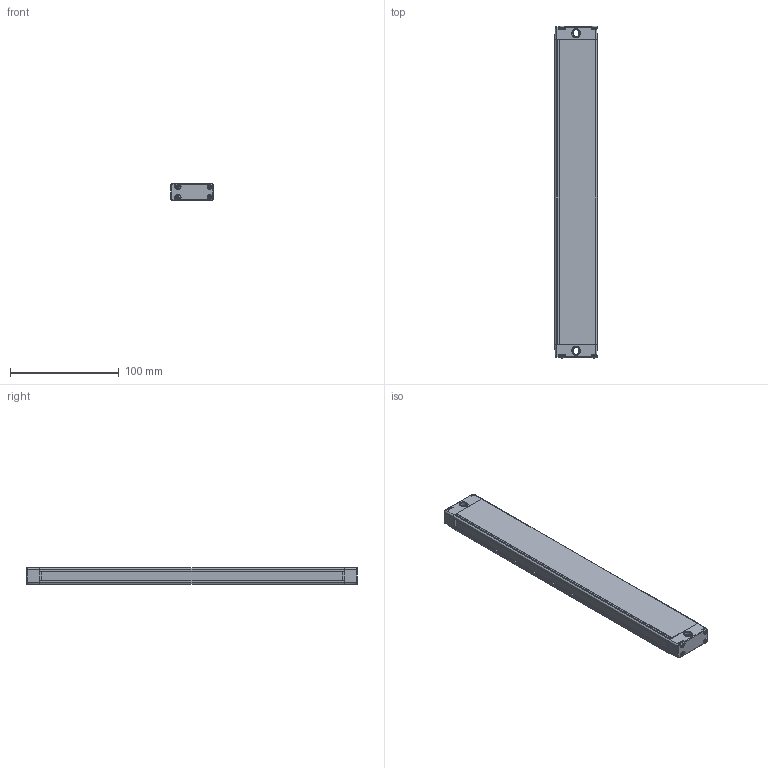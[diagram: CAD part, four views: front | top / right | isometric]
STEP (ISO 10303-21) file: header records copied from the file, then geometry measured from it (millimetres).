
FILE_DESCRIPTION((''),'2;1');
FILE_NAME('EB15--3610_ASM','2021-07-22T09:58:34',('18720616900'),(''),'CREO PARAMETRIC BY PTC INC, 2019010','CREO PARAMETRIC BY PTC INC, 2019010','');
FILE_SCHEMA(('CONFIG_CONTROL_DESIGN'));
Length unit declared in the file: millimetre
Products named in the file (6): EB15-00; EB15-000; EB15-0003; EB15-0004; ST-3-12; EB15--3610_ASM
Assembly tree (12 placements, depth 2):
  EB15--3610_ASM
    EB15-00
    EB15-000
    EB15-0003
    EB15-0004
    ST-3-12  x8
Bounding box: 39.15 x 305 x 15.8 mm (x, y, z)
Volume: 182750.7 mm3; surface area: 48440.4 mm2
Topology: 12 solids, 12 shells, 827 faces, 2188 edges, 1368 vertices
Faces by surface type: plane 242, bspline 188, cone 176, cylinder 165, torus 40, sphere 16
Entity records: 16044 total; most frequent: CARTESIAN_POINT 7660, ORIENTED_EDGE 1804, DIRECTION 1603, EDGE_CURVE 902, AXIS2_PLACEMENT_3D 577, VERTEX_POINT 563, VECTOR 449, LINE 449
